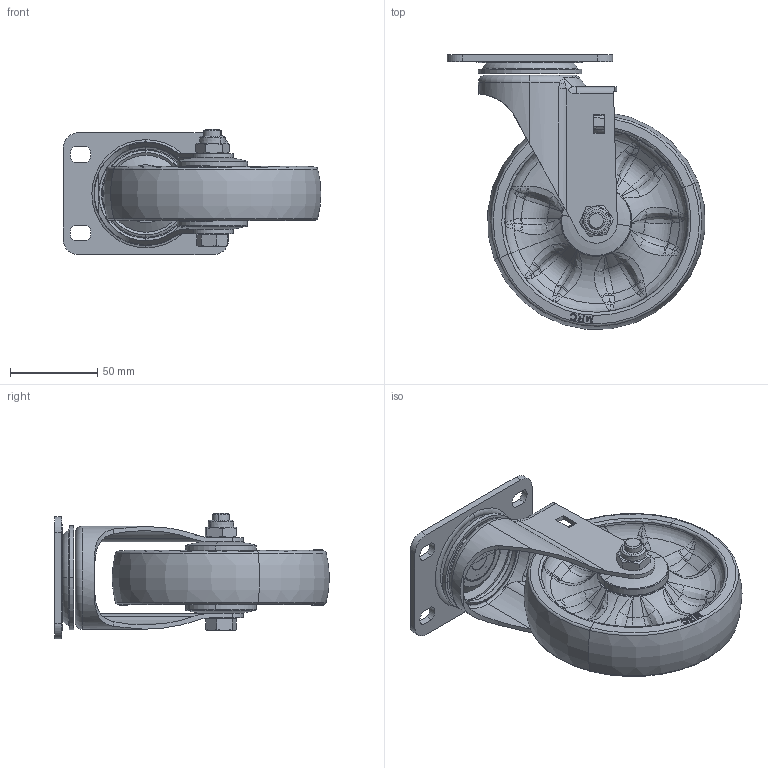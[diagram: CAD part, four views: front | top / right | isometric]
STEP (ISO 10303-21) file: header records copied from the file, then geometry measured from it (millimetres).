
FILE_DESCRIPTION (( 'STEP AP203' ), '1' );
FILE_NAME ('11390500072013.STEP', '2025-02-17T06:51:13', ( '20241006' ), ( '' ), 'SwSTEP 2.0', 'SolidWorks 2021', '' );
FILE_SCHEMA (( 'CONFIG_CONTROL_DESIGN' ));
Length unit declared in the file: millimetre
Products named in the file (9): 39_t_C_____g_v^39____5______AQPU__(2)_39____5______AQPU__.STEP; M10_2^39____5______AQPU__(2)_39____5______AQPU__.STEP; 39____5______AQPU__(2)^39____5______AQPU__.STEP; 39_t_C___O^39____5______AQPU__(2)_39____5______AQPU__.STEP; 11390500072013; 514波浪輪修改後（外观图用）.step; 5_o_L___j^39____5______AQPU__(2)_39____5______AQPU__.STEP; 39_t_C_W___L^39____5______AQPU__(2)_39____5______AQPU__.STEP; hexagon head bolts gb_GB_FASTENER_BOLT_SB A M10X60-N^39____5______AQPU__(2)_39____5______AQPU__.STEP
Assembly tree (8 placements, depth 3):
  11390500072013
    39____5______AQPU__(2)^39____5______AQPU__.STEP
      5_o_L___j^39____5______AQPU__(2)_39____5______AQPU__.STEP
      39_t_C_W___L^39____5______AQPU__(2)_39____5______AQPU__.STEP
      39_t_C_____g_v^39____5______AQPU__(2)_39____5______AQPU__.STEP
      39_t_C___O^39____5______AQPU__(2)_39____5______AQPU__.STEP
      M10_2^39____5______AQPU__(2)_39____5______AQPU__.STEP
      hexagon head bolts gb_GB_FASTENER_BOLT_SB A M10X60-N^39____5______AQPU__(2)_39____5______AQPU__.STEP
    514波浪輪修改後（外观图用）.step
Bounding box: 147.87 x 157.55 x 72 mm (x, y, z)
Volume: 276048.1 mm3; surface area: 97651.1 mm2
Topology: 9 solids, 9 shells, 1233 faces, 3090 edges, 1872 vertices
Faces by surface type: plane 445, bspline 429, torus 171, cone 115, cylinder 73
Entity records: 59908 total; most frequent: CARTESIAN_POINT 34061, ORIENTED_EDGE 6076, DIRECTION 3925, EDGE_CURVE 3038, VERTEX_POINT 1872, AXIS2_PLACEMENT_3D 1636, B_SPLINE_CURVE_WITH_KNOTS 1535, EDGE_LOOP 1310
